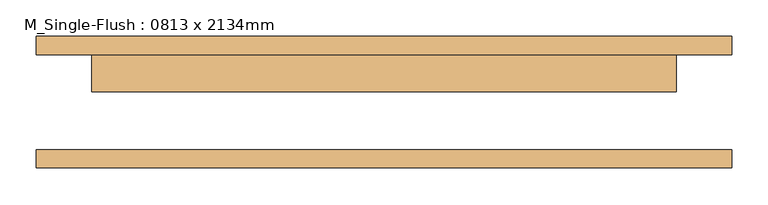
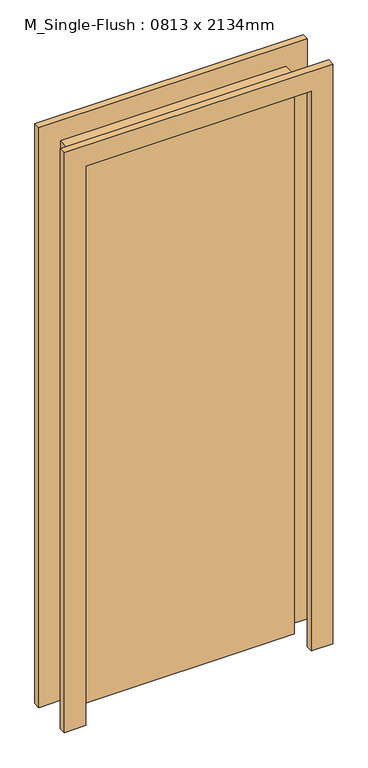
"""IFC4 building model written with IfcOpenShell, lengths in millimetres: door geometry, M_Single-Flush : 0813 x 2134mm."""

from ifc_helpers import new_model, si_unit, frame, origin, origin_with_axes, place, context, project, spatial, polyline, outline, extrude, source, transform, mapped, element, save


def m_single_flush_0813_x_2134mm_26e178a3(model_context):
    return source(origin(), model_context, "Body", "SweptSolid", [
        extrude(outline(polyline([(2176.0, -476.05), (0.0, -476.05), (0.0, -400.05), (2100.0, -400.05), (2100.0, 400.05), (0.0, 400.05), (0.0, 476.05), (2176.0, 476.05), (2176.0, -476.05)])), frame((0.0, 65.0, 0.0), z_axis=(0.0, 1.0, 0.0), x_axis=(0.0, 0.0, 1.0)), (0.0, 0.0, 1.0), 25.0),
        extrude(outline(polyline([(2176.0, 476.05), (2176.0, -476.05), (0.0, -476.05), (0.0, -400.05), (2100.0, -400.05), (2100.0, 400.05), (0.0, 400.05), (0.0, 476.05), (2176.0, 476.05)])), frame((0.0, -90.0, 0.0), z_axis=(0.0, 1.0, 0.0), x_axis=(0.0, 0.0, 1.0)), (0.0, 0.0, 1.0), 25.0),
        extrude(outline(polyline([(400.05, 14.0), (-400.05, 14.0), (-400.05, 65.0), (400.05, 65.0), (400.05, 14.0)])), origin_with_axes(), (0.0, 0.0, 1.0), 2100.0),
    ])


if __name__ == "__main__":
    model = new_model("IFC4")
    model_context = context("Model", 3, world=origin())
    ifc_project = project(units=[si_unit("LENGTHUNIT", "METRE", prefix="MILLI")], contexts=[model_context])
    site = spatial("IfcSite", under=ifc_project)
    building = spatial("IfcBuilding", under=site)
    placement = place(None, origin())
    m_single_flush_0813_x_2134mm_shape = m_single_flush_0813_x_2134mm_26e178a3(model_context)
    element("IfcDoor", 1, ObjectType="M_Single-Flush : 0813 x 2134mm", at=placement, inside=building, context=model_context, shape_type="MappedRepresentation", body=[
        mapped(m_single_flush_0813_x_2134mm_shape, transform((0.0, 0.0, 0.0), x_axis=(1.0, 0.0, 0.0), y_axis=(0.0, 1.0, 0.0), z_axis=(0.0, 0.0, 1.0))),
    ])
    save(model, "model.ifc")
